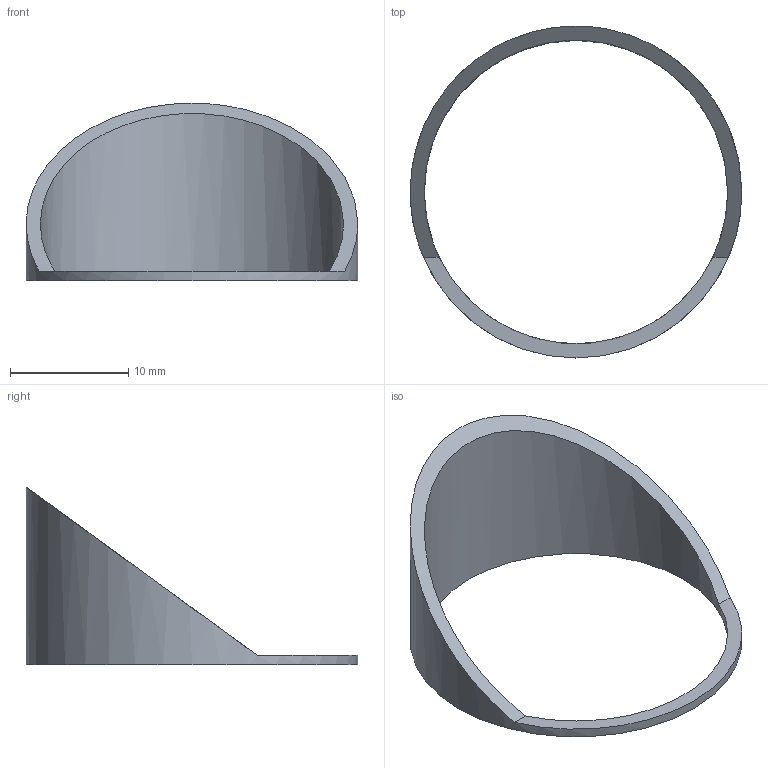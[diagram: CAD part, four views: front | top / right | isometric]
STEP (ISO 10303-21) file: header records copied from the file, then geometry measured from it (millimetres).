
FILE_DESCRIPTION(('FreeCAD Model'),'2;1');
FILE_NAME('Open CASCADE Shape Model','2026-09-05T20:39:50',('FreeCAD'),( 'FreeCAD'),'Open CASCADE STEP processor 7.8','FreeCAD','Unknown');
FILE_SCHEMA(('AUTOMOTIVE_DESIGN { 1 0 10303 214 1 1 1 1 }'));
Length unit declared in the file: millimetre
Products named in the file (1): Open CASCADE STEP translator 7.8 3
Bounding box: 28 x 28 x 15 mm (x, y, z)
Volume: 624 mm3; surface area: 1258 mm2
Topology: 1 solids, 1 shells, 5 faces, 13 edges, 9 vertices
Faces by surface type: plane 3, cylinder 2
Full cylindrical faces by diameter (mm): 25.6 x1, 28 x1
Entity records: 178 total; most frequent: DIRECTION 34, CARTESIAN_POINT 28, ORIENTED_EDGE 26, AXIS2_PLACEMENT_3D 15, EDGE_CURVE 13, VERTEX_POINT 9, FACE_BOUND 6, EDGE_LOOP 6
